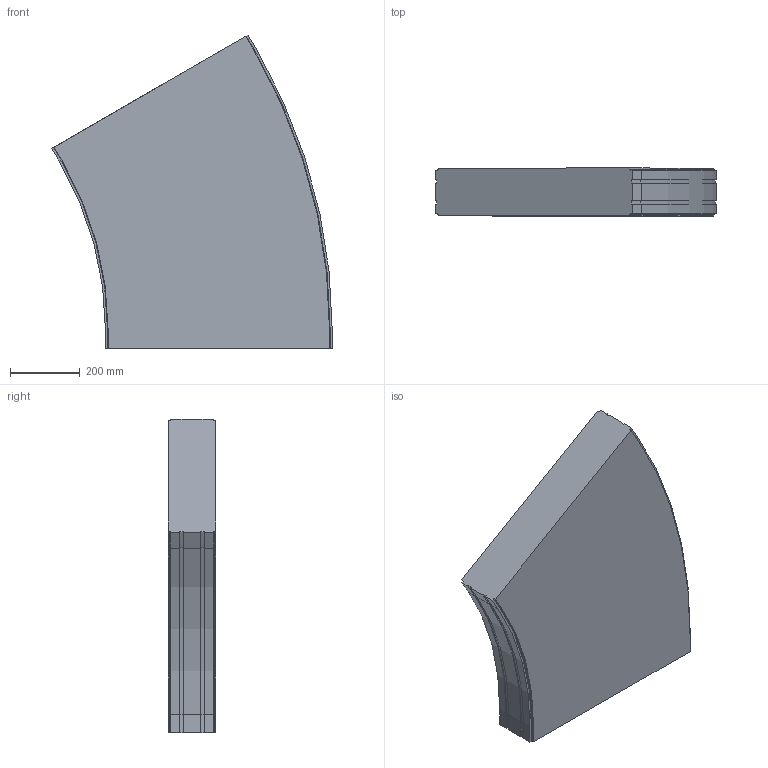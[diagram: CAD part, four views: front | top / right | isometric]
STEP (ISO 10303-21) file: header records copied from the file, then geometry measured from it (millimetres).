
FILE_DESCRIPTION (( 'STEP AP214' ), '1' );
FILE_NAME ('FS-MTC2-150-INOX horizontaalbocht.650 30°.STEP', '2017-02-08T12:40:43', ( '' ), ( '' ), 'SwSTEP 2.0', 'SolidWorks 2016', '' );
FILE_SCHEMA (( 'AUTOMOTIVE_DESIGN' ));
Length unit declared in the file: millimetre
Products named in the file (1): FS-MTC2-150-INOX horizontaalbocht.650 30°
Bounding box: 804.66 x 136.5 x 900.59 mm (x, y, z)
Volume: 68599761.4 mm3; surface area: 1412663.6 mm2
Topology: 1 solids, 1 shells, 74 faces, 216 edges, 144 vertices
Faces by surface type: plane 56, cylinder 18
Entity records: 2470 total; most frequent: CARTESIAN_POINT 435, ORIENTED_EDGE 432, DIRECTION 402, EDGE_CURVE 216, LINE 180, VECTOR 180, VERTEX_POINT 144, AXIS2_PLACEMENT_3D 111
